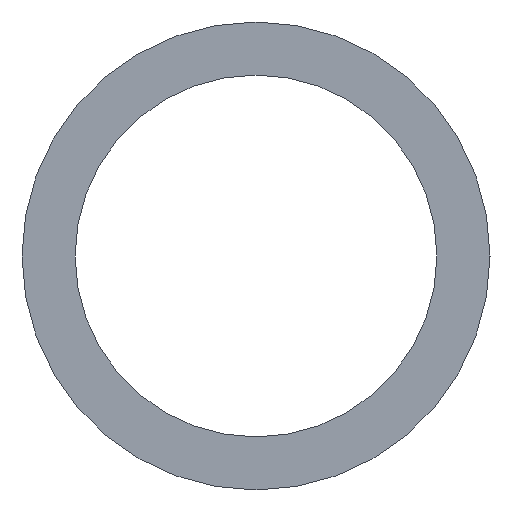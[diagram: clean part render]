
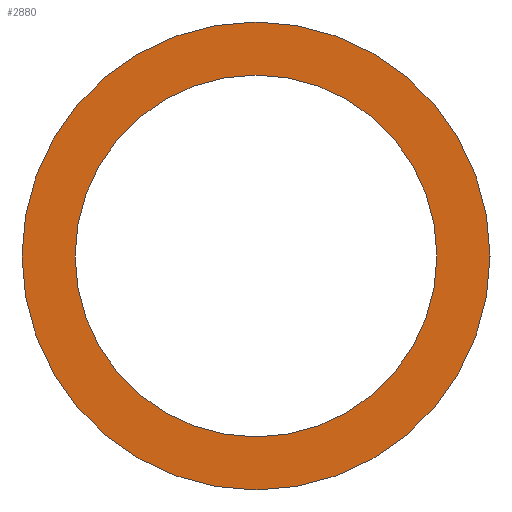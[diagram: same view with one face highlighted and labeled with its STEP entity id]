
A CAD part, left-side view. The second image highlights one B-rep face of the part: STEP entity #2880.
In plain terms, the highlighted planar face has unit normal (-1, 0, 0).
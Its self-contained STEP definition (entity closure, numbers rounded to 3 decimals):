
#1770=CARTESIAN_POINT('',(54.212,30.917,
0.));
#1780=VERTEX_POINT('',#1770);
#1860=CARTESIAN_POINT('',(54.212,74.217,
0.));
#1870=VERTEX_POINT('',#1860);
#1900=CARTESIAN_POINT('',(54.212,52.567,
0.));
#1910=DIRECTION('',(-1.,-0.,-0.));
#1920=DIRECTION('',(0.,1.,0.));
#1930=AXIS2_PLACEMENT_3D('',#1900,#1910,#1920);
#1940=CIRCLE('',#1930,21.65);
#1950=EDGE_CURVE('',#1780,#1870,#1940,.T.);
#2460=EDGE_CURVE('',#1870,#1780,#1940,.T.);
#2640=CARTESIAN_POINT('',(54.212,78.992,0.));
#2650=DIRECTION('',(1.,0.,0.));
#2660=DIRECTION('',(0.,1.,0.));
#2670=AXIS2_PLACEMENT_3D('',#2640,#2650,#2660);
#2680=PLANE('',#2670);
#2690=ORIENTED_EDGE('',*,*,#2460,.F.);
#2700=ORIENTED_EDGE('',*,*,#1950,.F.);
#2710=EDGE_LOOP('',(#2700,#2690));
#2720=FACE_BOUND('',#2710,.T.);
#2730=CARTESIAN_POINT('',(54.212,52.567,
0.));
#2740=DIRECTION('',(-1.,-0.,-0.));
#2750=DIRECTION('',(0.,1.,0.));
#2760=AXIS2_PLACEMENT_3D('',#2730,#2740,#2750);
#2770=CIRCLE('',#2760,28.);
#2780=CARTESIAN_POINT('',(54.212,80.567,
0.));
#2790=VERTEX_POINT('',#2780);
#2800=CARTESIAN_POINT('',(54.212,24.567,
0.));
#2810=VERTEX_POINT('',#2800);
#2820=EDGE_CURVE('',#2790,#2810,#2770,.T.);
#2830=ORIENTED_EDGE('',*,*,#2820,.T.);
#2840=EDGE_CURVE('',#2810,#2790,#2770,.T.);
#2850=ORIENTED_EDGE('',*,*,#2840,.T.);
#2860=EDGE_LOOP('',(#2850,#2830));
#2870=FACE_OUTER_BOUND('',#2860,.T.);
#2880=ADVANCED_FACE('',(#2720,#2870),#2680,.F.);
